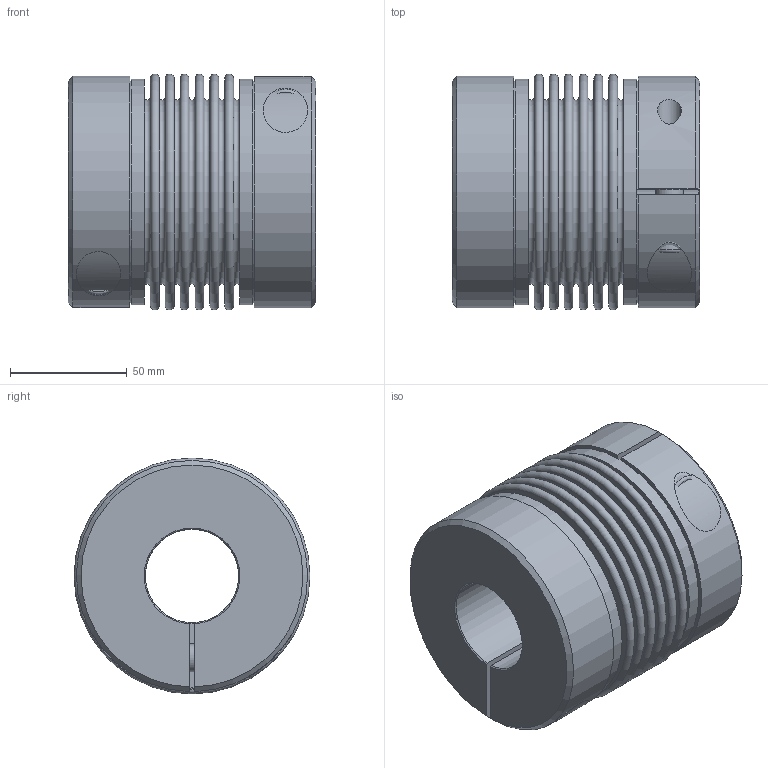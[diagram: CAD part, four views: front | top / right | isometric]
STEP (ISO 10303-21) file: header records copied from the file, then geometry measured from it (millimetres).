
FILE_DESCRIPTION(/* description */ ('Unknown'),/* implementation_level */ '2;1');
FILE_NAME(/* name */ 'KM 270 - 106',/* time_stamp */ '2020-05-07T08:42:07+03:00',/* author */ ('Unknown'),/* organization */ ('Unknown'),/* preprocessor_version */ 'ST-DEVELOPER v16.7',/* originating_system */ 'DEX',/* authorisation */ $);
FILE_SCHEMA (('AUTOMOTIVE_DESIGN {1 0 10303 214 3 1 1}'));
Length unit declared in the file: millimetre
Products named in the file (1): KM 270 - 1062
Bounding box: 106 x 101 x 101 mm (x, y, z)
Volume: 423307.4 mm3; surface area: 155239.8 mm2
Topology: 1 solids, 3 shells, 140 faces, 281 edges, 183 vertices
Faces by surface type: plane 76, cylinder 28, torus 28, cone 8
Full cylindrical faces by diameter (mm): 10.2 x2, 12 x2, 12.5 x2, 13 x2, 18 x2, 19 x2, 96.6 x2
Entity records: 3557 total; most frequent: CARTESIAN_POINT 766, DIRECTION 612, ORIENTED_EDGE 444, AXIS2_PLACEMENT_3D 257, FACE_BOUND 228, EDGE_LOOP 226, EDGE_CURVE 222, VERTEX_POINT 170
